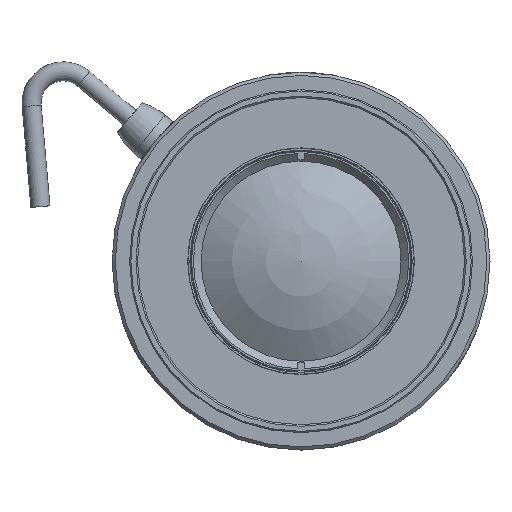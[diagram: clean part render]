
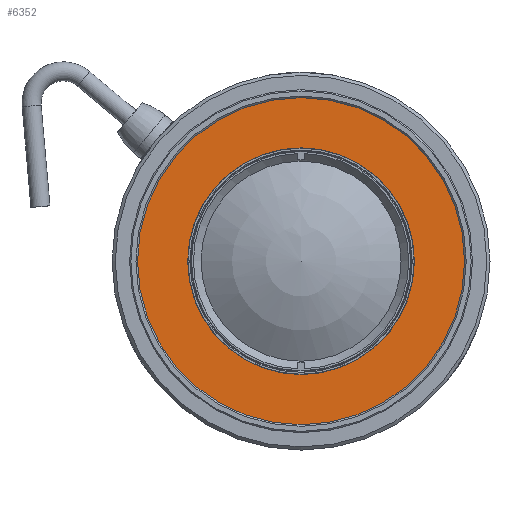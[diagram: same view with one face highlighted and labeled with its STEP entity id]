
A CAD part, front view. The second image highlights one B-rep face of the part: STEP entity #6352.
In plain terms, the highlighted planar face has unit normal (0, -1, 0).
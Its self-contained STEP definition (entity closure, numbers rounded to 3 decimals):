
#959=PLANE('',#6662);
#1172=ORIENTED_EDGE('',*,*,#2336,.T.);
#1173=ORIENTED_EDGE('',*,*,#2335,.F.);
#2335=EDGE_CURVE('',#2920,#2920,#3349,.T.);
#2336=EDGE_CURVE('',#2921,#2921,#3350,.T.);
#2920=VERTEX_POINT('',#8357);
#2921=VERTEX_POINT('',#8360);
#3349=CIRCLE('',#6661,17.85);
#3350=CIRCLE('',#6663,26.);
#3484=EDGE_LOOP('',(#1172));
#3485=EDGE_LOOP('',(#1173));
#3892=FACE_BOUND('',#3484,.T.);
#3893=FACE_BOUND('',#3485,.T.);
#6352=ADVANCED_FACE('',(#3892,#3893),#959,.T.);
#6661=AXIS2_PLACEMENT_3D('',#8356,#7100,#7101);
#6662=AXIS2_PLACEMENT_3D('',#8358,#7102,#7103);
#6663=AXIS2_PLACEMENT_3D('',#8359,#7104,#7105);
#7100=DIRECTION('',(0.,-1.,0.));
#7101=DIRECTION('',(0.,0.,-1.));
#7102=DIRECTION('',(0.,-1.,0.));
#7103=DIRECTION('',(0.,0.,-1.));
#7104=DIRECTION('',(0.,-1.,0.));
#7105=DIRECTION('',(0.,0.,-1.));
#8356=CARTESIAN_POINT('',(0.,-76.838,0.));
#8357=CARTESIAN_POINT('',(0.,-76.838,-17.85));
#8358=CARTESIAN_POINT('',(0.,-76.838,17.85));
#8359=CARTESIAN_POINT('',(0.,-76.838,0.));
#8360=CARTESIAN_POINT('',(0.,-76.838,-26.));
